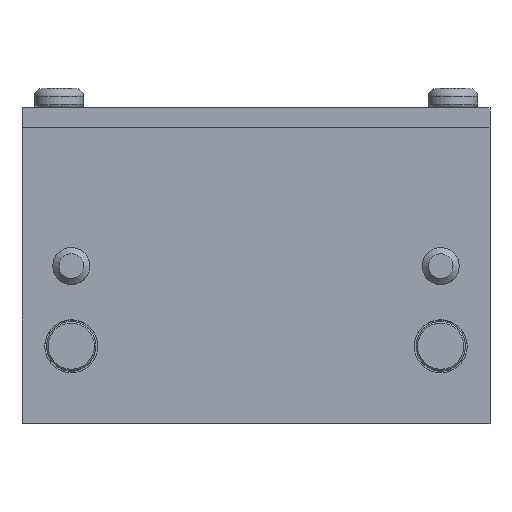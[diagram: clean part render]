
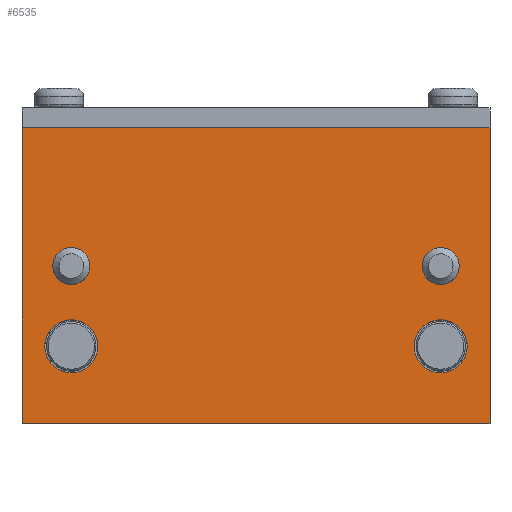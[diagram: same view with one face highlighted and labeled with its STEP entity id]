
A CAD part, top view. The second image highlights one B-rep face of the part: STEP entity #6535.
In plain terms, the highlighted planar face has unit normal (0, 0, 1).
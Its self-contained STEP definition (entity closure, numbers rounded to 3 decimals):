
#43 = DIRECTION ( 'NONE',  ( 1., 0., 0. ) ) ;
#52 = DIRECTION ( 'NONE',  ( 0., 0., 1. ) ) ;
#53 = CARTESIAN_POINT ( 'NONE',  ( 15., 0.75, 12.5 ) ) ;
#241 = EDGE_CURVE ( 'NONE', #10450, #10450, #8177, .T. ) ;
#277 = AXIS2_PLACEMENT_3D ( 'NONE', #7919, #7900, #7872 ) ;
#320 = EDGE_CURVE ( 'NONE', #10440, #10440, #3605, .T. ) ;
#659 = DIRECTION ( 'NONE',  ( -1., 0., 0. ) ) ;
#669 = DIRECTION ( 'NONE',  ( 0., 0., -1. ) ) ;
#683 = CARTESIAN_POINT ( 'NONE',  ( 0., 0., 12.5 ) ) ;
#698 = PLANE ( 'NONE',  #8242 ) ;
#699 = FACE_OUTER_BOUND ( 'NONE', #1775, .T. ) ;
#711 = FACE_BOUND ( 'NONE', #8867, .T. ) ;
#721 = FACE_BOUND ( 'NONE', #2739, .T. ) ;
#734 = FACE_BOUND ( 'NONE', #5313, .T. ) ;
#750 = FACE_BOUND ( 'NONE', #3635, .T. ) ;
#1558 = ORIENTED_EDGE ( 'NONE', *, *, #241, .T. ) ;
#1742 = DIRECTION ( 'NONE',  ( 0., -1., 0. ) ) ;
#1751 = CARTESIAN_POINT ( 'NONE',  ( -19., -12., 12.5 ) ) ;
#1765 = LINE ( 'NONE', #1751, #7345 ) ;
#1775 = EDGE_LOOP ( 'NONE', ( #2099, #2058, #1965, #2068 ) ) ;
#1800 = VECTOR ( 'NONE', #3925, 1000. ) ;
#1902 = EDGE_CURVE ( 'NONE', #10274, #10274, #8714, .T. ) ;
#1965 = ORIENTED_EDGE ( 'NONE', *, *, #6219, .T. ) ;
#2043 = ORIENTED_EDGE ( 'NONE', *, *, #1902, .F. ) ;
#2058 = ORIENTED_EDGE ( 'NONE', *, *, #3115, .T. ) ;
#2068 = ORIENTED_EDGE ( 'NONE', *, *, #8901, .T. ) ;
#2099 = ORIENTED_EDGE ( 'NONE', *, *, #3729, .T. ) ;
#2739 = EDGE_LOOP ( 'NONE', ( #5149 ) ) ;
#3115 = EDGE_CURVE ( 'NONE', #5418, #7827, #8400, .T. ) ;
#3605 = CIRCLE ( 'NONE', #4159, 2.15 ) ;
#3635 = EDGE_LOOP ( 'NONE', ( #5126 ) ) ;
#3658 = DIRECTION ( 'NONE',  ( 1., 0., 0. ) ) ;
#3660 = CARTESIAN_POINT ( 'NONE',  ( -19., -12., 12.5 ) ) ;
#3661 = LINE ( 'NONE', #3660, #5125 ) ;
#3729 = EDGE_CURVE ( 'NONE', #4129, #5418, #3973, .T. ) ;
#3925 = DIRECTION ( 'NONE',  ( 0., 1., 0. ) ) ;
#3959 = CARTESIAN_POINT ( 'NONE',  ( 19., -12., 12.5 ) ) ;
#3973 = LINE ( 'NONE', #3959, #1800 ) ;
#4129 = VERTEX_POINT ( 'NONE', #9620 ) ;
#4159 = AXIS2_PLACEMENT_3D ( 'NONE', #9287, #9285, #9283 ) ;
#4581 = CIRCLE ( 'NONE', #277, 1.493 ) ;
#4873 = CARTESIAN_POINT ( 'NONE',  ( -19., -12., 12.5 ) ) ;
#4896 = EDGE_CURVE ( 'NONE', #9770, #9770, #4581, .T. ) ;
#5125 = VECTOR ( 'NONE', #3658, 1000. ) ;
#5126 = ORIENTED_EDGE ( 'NONE', *, *, #320, .T. ) ;
#5149 = ORIENTED_EDGE ( 'NONE', *, *, #4896, .F. ) ;
#5313 = EDGE_LOOP ( 'NONE', ( #1558 ) ) ;
#5418 = VERTEX_POINT ( 'NONE', #5434 ) ;
#5434 = CARTESIAN_POINT ( 'NONE',  ( 19., 12., 12.5 ) ) ;
#5561 = VERTEX_POINT ( 'NONE', #4873 ) ;
#6219 = EDGE_CURVE ( 'NONE', #7827, #5561, #1765, .T. ) ;
#6535 = ADVANCED_FACE ( 'NONE', ( #750, #734, #721, #711, #699 ), #698, .F. ) ;
#6812 = CARTESIAN_POINT ( 'NONE',  ( -19., 12., 12.5 ) ) ;
#6913 = VECTOR ( 'NONE', #8367, 1000. ) ;
#7054 = AXIS2_PLACEMENT_3D ( 'NONE', #53, #52, #43 ) ;
#7345 = VECTOR ( 'NONE', #1742, 1000. ) ;
#7827 = VERTEX_POINT ( 'NONE', #6812 ) ;
#7872 = DIRECTION ( 'NONE',  ( 1., 0., 0. ) ) ;
#7900 = DIRECTION ( 'NONE',  ( 0., 0., 1. ) ) ;
#7919 = CARTESIAN_POINT ( 'NONE',  ( -15., 0.75, 12.5 ) ) ;
#8177 = CIRCLE ( 'NONE', #9732, 2.15 ) ;
#8242 = AXIS2_PLACEMENT_3D ( 'NONE', #683, #669, #659 ) ;
#8367 = DIRECTION ( 'NONE',  ( -1., 0., 0. ) ) ;
#8382 = CARTESIAN_POINT ( 'NONE',  ( -19., 12., 12.5 ) ) ;
#8400 = LINE ( 'NONE', #8382, #6913 ) ;
#8714 = CIRCLE ( 'NONE', #7054, 1.493 ) ;
#8867 = EDGE_LOOP ( 'NONE', ( #2043 ) ) ;
#8901 = EDGE_CURVE ( 'NONE', #5561, #4129, #3661, .T. ) ;
#9283 = DIRECTION ( 'NONE',  ( -1., 0., 0. ) ) ;
#9285 = DIRECTION ( 'NONE',  ( 0., 0., -1. ) ) ;
#9287 = CARTESIAN_POINT ( 'NONE',  ( -15., -5.75, 12.5 ) ) ;
#9459 = DIRECTION ( 'NONE',  ( -1., 0., 0. ) ) ;
#9463 = DIRECTION ( 'NONE',  ( 0., 0., -1. ) ) ;
#9476 = CARTESIAN_POINT ( 'NONE',  ( 15., -5.75, 12.5 ) ) ;
#9620 = CARTESIAN_POINT ( 'NONE',  ( 19., -12., 12.5 ) ) ;
#9732 = AXIS2_PLACEMENT_3D ( 'NONE', #9476, #9463, #9459 ) ;
#9769 = CARTESIAN_POINT ( 'NONE',  ( -13.507, 0.75, 12.5 ) ) ;
#9770 = VERTEX_POINT ( 'NONE', #9769 ) ;
#10273 = CARTESIAN_POINT ( 'NONE',  ( 16.493, 0.75, 12.5 ) ) ;
#10274 = VERTEX_POINT ( 'NONE', #10273 ) ;
#10439 = CARTESIAN_POINT ( 'NONE',  ( -17.15, -5.75, 12.5 ) ) ;
#10440 = VERTEX_POINT ( 'NONE', #10439 ) ;
#10441 = CARTESIAN_POINT ( 'NONE',  ( 12.85, -5.75, 12.5 ) ) ;
#10450 = VERTEX_POINT ( 'NONE', #10441 ) ;
